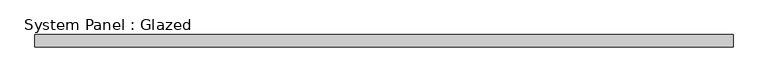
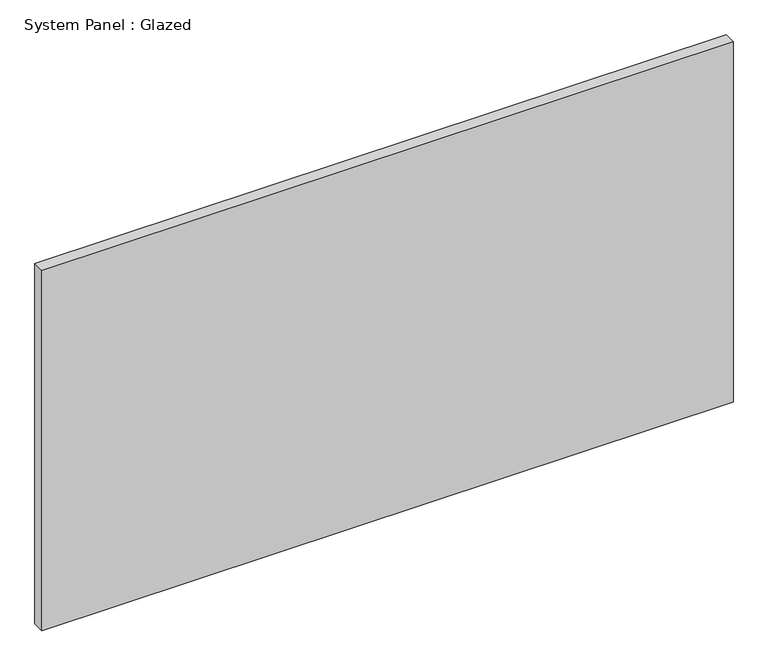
"""IFC4 building model written with IfcOpenShell, lengths in millimetres: plate geometry, System Panel : Glazed."""

import ifcopenshell
import ifcopenshell.guid

model = None  # the IFC model being written
_history = None  # IfcOwnerHistory: only IFC2X3 demands one
_inside = {}  # id of a spatial element -> (the spatial element, [elements in it])
_under = {}  # id of a project, library or spatial element -> (it, [spatial elements below it])
_declared = {}  # id of a project -> (the project, [libraries it declares])
_typed = {}  # id of a type object -> (the type object, [elements of that type])
_made_of = {}  # id of a material, layer set ... -> (it, [elements and type objects made of it])


def new_model(schema):
    """Start an empty IFC model of exactly this schema.

    Asked for "IFC4X3", IfcOpenShell would pick the latest addendum, in which some entities
    have other attributes; the version numbers below select the first issue.
    IFC2X3 requires an IfcOwnerHistory on every rooted entity: one is made here for all.
    """
    global model, _history
    if schema == "IFC4X3":
        model = ifcopenshell.file(schema_version=(4, 3, 0, 0))
    else:
        model = ifcopenshell.file(schema=schema)
    _inside.clear()
    _under.clear()
    _declared.clear()
    _typed.clear()
    _made_of.clear()
    _history = None
    if model.schema == "IFC2X3":
        org = make("IfcOrganization", Name="unknown")
        user = make(
            "IfcPersonAndOrganization",
            ThePerson=make("IfcPerson", FamilyName="unknown"),
            TheOrganization=org,
        )
        app = make(
            "IfcApplication",
            ApplicationDeveloper=org,
            Version="unknown",
            ApplicationFullName="unknown",
            ApplicationIdentifier="unknown",
        )
        _history = make(
            "IfcOwnerHistory",
            OwningUser=user,
            OwningApplication=app,
            ChangeAction="ADDED",
            CreationDate=0,
        )
    return model


def make(cls, **values):
    """One entity of the class cls with the attributes given. An attribute that is None is left unset."""
    return model.create_entity(
        cls, **{name: value for name, value in values.items() if value is not None}
    )


def rooted(cls, **values):
    """An entity with a GlobalId (a new one), such as an element, a storey or a relation."""
    return make(cls, GlobalId=ifcopenshell.guid.new(), OwnerHistory=_history, **values)


def si_unit(unit_type, name, prefix=None):
    """IfcSIUnit, for example si_unit("LENGTHUNIT", "METRE", prefix="MILLI")."""
    return make("IfcSIUnit", UnitType=unit_type, Prefix=prefix, Name=name)


def assignment(units):
    """IfcUnitAssignment: the units of a project."""
    return None if units is None else make("IfcUnitAssignment", Units=units)


def point(xyz):
    """IfcCartesianPoint."""
    return None if xyz is None else make("IfcCartesianPoint", Coordinates=xyz)


def direction(xyz):
    """IfcDirection."""
    return None if xyz is None else make("IfcDirection", DirectionRatios=xyz)


def frame(location, z_axis=None, x_axis=None):
    """IfcAxis2Placement3D, a coordinate frame: its origin and axes. An axis left out is left unset."""
    return make(
        "IfcAxis2Placement3D",
        Location=point(location),
        Axis=direction(z_axis),
        RefDirection=direction(x_axis),
    )


def origin():
    """The frame at (0, 0, 0) with its axes left unset."""
    return frame((0.0, 0.0, 0.0))


def origin_with_axes():
    """The frame at (0, 0, 0) with the z axis (0, 0, 1) and the x axis (1, 0, 0) written out."""
    return frame((0.0, 0.0, 0.0), z_axis=(0.0, 0.0, 1.0), x_axis=(1.0, 0.0, 0.0))


def place(relative_to, where):
    """IfcLocalPlacement: puts the frame where relative to a parent placement (None: the world)."""
    return make(
        "IfcLocalPlacement", PlacementRelTo=relative_to, RelativePlacement=where
    )


def context(
    kind, dimensions, precision=None, world=None, true_north=None, identifier=None
):
    """IfcGeometricRepresentationContext, for example the 3D "Model" context."""
    return make(
        "IfcGeometricRepresentationContext",
        ContextIdentifier=identifier,
        ContextType=kind,
        CoordinateSpaceDimension=dimensions,
        Precision=precision,
        WorldCoordinateSystem=world,
        TrueNorth=true_north,
    )


def project(units=None, contexts=None):
    """IfcProject with its units and contexts."""
    return rooted(
        "IfcProject",
        Name="project",
        RepresentationContexts=contexts,
        UnitsInContext=assignment(units),
    )


def spatial(cls, under=None, at=None, **own):
    """A site, building, storey or space (cls), placed at a placement, below another one or the project."""
    s = rooted(cls, ObjectPlacement=at, **own)
    if under is not None:
        _under.setdefault(under.id(), (under, []))[1].append(s)
    return s


def polyline(points):
    """IfcPolyline through the points."""
    return make("IfcPolyline", Points=[point(p) for p in points])


def outline(outer, holes=None, kind="AREA"):
    """IfcArbitraryClosedProfileDef: a profile drawn as a closed curve; with holes, ...WithVoids."""
    if holes is None:
        return make("IfcArbitraryClosedProfileDef", ProfileType=kind, OuterCurve=outer)
    return make(
        "IfcArbitraryProfileDefWithVoids",
        ProfileType=kind,
        OuterCurve=outer,
        InnerCurves=holes,
    )


def extrude(swept, where, along, depth):
    """IfcExtrudedAreaSolid: the profile swept, set in the frame where, extruded along a direction by depth."""
    return make(
        "IfcExtrudedAreaSolid",
        SweptArea=swept,
        Position=where,
        ExtrudedDirection=direction(along),
        Depth=depth,
    )


def shape(context_of_items, identifier, shape_type, items):
    """IfcShapeRepresentation: the items that make up one representation, for example the "Body"."""
    return make(
        "IfcShapeRepresentation",
        ContextOfItems=context_of_items,
        RepresentationIdentifier=identifier,
        RepresentationType=shape_type,
        Items=items,
    )


def source(mapping_origin, context_of_items, identifier, shape_type, items):
    """IfcRepresentationMap: a shape defined once, which mapped items show again and again."""
    return make(
        "IfcRepresentationMap",
        MappingOrigin=mapping_origin,
        MappedRepresentation=shape(context_of_items, identifier, shape_type, items),
    )


def transform(
    local_origin,
    x_axis=None,
    y_axis=None,
    z_axis=None,
    scale=None,
    scale2=None,
    scale3=None,
    uniform=True,
):
    """IfcCartesianTransformationOperator3D, or its non-uniform kind. x_axis, y_axis, z_axis: its Axis1, 2, 3."""
    if uniform:
        return make(
            "IfcCartesianTransformationOperator3D",
            Axis1=direction(x_axis),
            Axis2=direction(y_axis),
            LocalOrigin=point(local_origin),
            Scale=scale,
            Axis3=direction(z_axis),
        )
    return make(
        "IfcCartesianTransformationOperator3DnonUniform",
        Axis1=direction(x_axis),
        Axis2=direction(y_axis),
        LocalOrigin=point(local_origin),
        Scale=scale,
        Axis3=direction(z_axis),
        Scale2=scale2,
        Scale3=scale3,
    )


def mapped(mapping_source, mapping_target):
    """IfcMappedItem: shows the shape of a source again, moved by a transform."""
    return make(
        "IfcMappedItem", MappingSource=mapping_source, MappingTarget=mapping_target
    )


def made_of(thing, what):
    """Note that an element or type object is made of a material, layer set ...; save() writes the relation."""
    if what is not None:
        _made_of.setdefault(what.id(), (what, []))[1].append(thing)
    return thing


def element(
    cls,
    number,
    at=None,
    inside=None,
    cuts=None,
    type_object=None,
    material=None,
    context=None,
    identifier="Body",
    shape_type=None,
    held_by="IfcProductDefinitionShape",
    body=None,
    shapes=None,
    **own,
):
    """One element of the class cls, such as IfcWall. Its Tag is "e" and its number.

    at: its placement. inside: the storey or other place that contains it. cuts: it is an
    opening in that element (IfcRelVoidsElement). A single representation is given by context,
    identifier, shape_type and body (its items); several are given by shapes. held_by: the class
    of the entity that holds the representations. save() writes the other relations.
    """
    e = rooted(cls, Tag="e%d" % number, ObjectPlacement=at, **own)
    if body is not None:
        shapes = [shape(context, identifier, shape_type, body)]
    if shapes is not None:
        e.Representation = make(held_by, Representations=shapes)
    if inside is not None:
        _inside.setdefault(inside.id(), (inside, []))[1].append(e)
    if cuts is not None:
        rooted(
            "IfcRelVoidsElement", RelatingBuildingElement=cuts, RelatedOpeningElement=e
        )
    if type_object is not None:
        _typed.setdefault(type_object.id(), (type_object, []))[1].append(e)
    return made_of(e, material)


def aggregate(whole, parts):
    """IfcRelAggregates: a whole, such as a stair, and the parts it consists of."""
    return rooted("IfcRelAggregates", RelatingObject=whole, RelatedObjects=parts)


def save(model, path):
    """Write the relations noted so far, then the file.

    IfcRelAggregates (storeys below a building ...), IfcRelContainedInSpatialStructure (elements
    in a storey), IfcRelDefinesByType, IfcRelAssociatesMaterial and IfcRelDeclares: one each for
    every whole, place, type object, material and project.
    """
    for whole, parts in _under.values():
        aggregate(whole, parts)
    for where, things in _inside.values():
        rooted(
            "IfcRelContainedInSpatialStructure",
            RelatedElements=things,
            RelatingStructure=where,
        )
    for kind, things in _typed.values():
        rooted("IfcRelDefinesByType", RelatedObjects=things, RelatingType=kind)
    for what, things in _made_of.values():
        rooted("IfcRelAssociatesMaterial", RelatedObjects=things, RelatingMaterial=what)
    for by, libraries in _declared.values():
        rooted("IfcRelDeclares", RelatingContext=by, RelatedDefinitions=libraries)
    model.write(path)


def system_panel_glazed_324ac287(model_context):
    return source(origin(), model_context, "Body", "SweptSolid", [
        extrude(outline(polyline([(716.40625, 24.5), (-716.40625, 24.5), (-716.40625, 49.5), (716.40625, 49.5), (716.40625, 24.5)])), origin_with_axes(), (0.0, 0.0, 1.0), 790.0),
    ])


if __name__ == "__main__":
    model = new_model("IFC4")
    model_context = context("Model", 3, world=origin())
    ifc_project = project(units=[si_unit("LENGTHUNIT", "METRE", prefix="MILLI")], contexts=[model_context])
    site = spatial("IfcSite", under=ifc_project)
    building = spatial("IfcBuilding", under=site)
    placement = place(None, origin())
    system_panel_glazed_shape = system_panel_glazed_324ac287(model_context)
    element("IfcPlate", 1, ObjectType="System Panel : Glazed", at=placement, inside=building, context=model_context, shape_type="MappedRepresentation", body=[
        mapped(system_panel_glazed_shape, transform((0.0, 0.0, 0.0), x_axis=(1.0, 0.0, 0.0), y_axis=(0.0, 1.0, 0.0), z_axis=(0.0, 0.0, 1.0))),
    ])
    save(model, "model.ifc")
